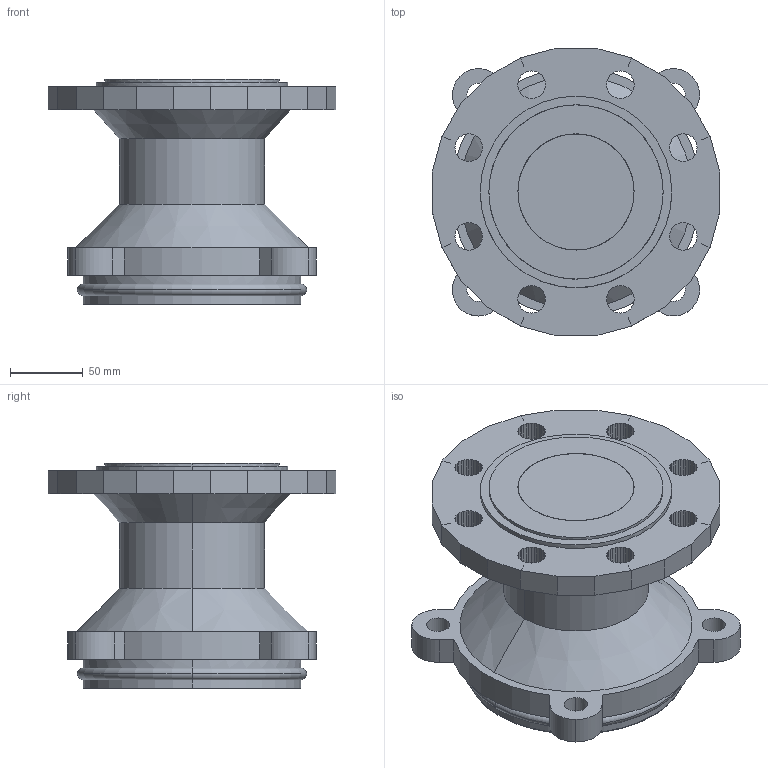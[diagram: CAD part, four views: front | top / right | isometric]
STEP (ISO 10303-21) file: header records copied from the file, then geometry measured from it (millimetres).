
FILE_DESCRIPTION(('CATIA V5 STEP Exchange','CAx-IF Rec.Pracs.--- Model Styling and Organization---1.2---2011-12-15'),'2;1');
FILE_NAME('S:\USER\CAT6\3DPlanerdaten_ab_2012\_pit-cup_ab_03-10-2016\4420\8642_DN150-DN80.stp','2018-03-29T11:33:28+00:00',('none'),('none'),'CATIA Version 5 Release 21 SP 5 (IN-10)','CATIA V5 STEP AP214 Edition 3','none');
FILE_SCHEMA(('AUTOMOTIVE_DESIGN { 1 0 10303 214 3 1 1 1 }'));
Length unit declared in the file: millimetre
Products named in the file (1): 8642_DN150-DN80
Bounding box: 198.29 x 198.29 x 155.4 mm (x, y, z)
Volume: 1614487 mm3; surface area: 244854.5 mm2
Topology: 3 solids, 3 shells, 439 faces, 1226 edges, 793 vertices
Faces by surface type: plane 387, cylinder 44, torus 4, cone 4
Entity records: 14539 total; most frequent: CARTESIAN_POINT 2803, ORIENTED_EDGE 2452, DIRECTION 2078, EDGE_CURVE 1226, VECTOR 1087, LINE 1087, VERTEX_POINT 793, AXIS2_PLACEMENT_3D 557
